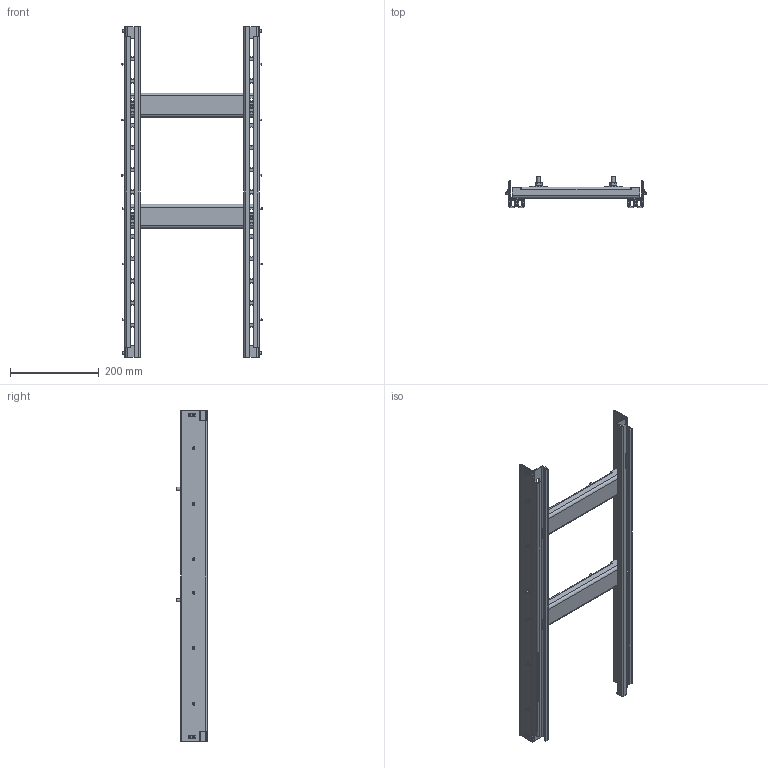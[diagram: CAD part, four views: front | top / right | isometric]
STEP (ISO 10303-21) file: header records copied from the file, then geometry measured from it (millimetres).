
FILE_DESCRIPTION(('STEP AP203'), '1');
FILE_NAME('3557 Êîìïëåêò äëÿ óñòàíîâêè òÿæåëîãî îáîðóäîâàíèÿ', '', ('UNSPECIFIED'), ('UNSPECIFIED'), 'C3D Converter', 'C3D Toolkit', '');
FILE_SCHEMA(('CONFIG_CONTROL_DESIGN'));
Length unit declared in the file: millimetre
Products named in the file (16): 3557.40.80; 3607.80; 3507.40; 2541; 2542; 3555; 3556
Assembly tree (47 placements, depth 4):
  3557.40.80
    3607.80  x2
    3507.40  x2
    2541  x4
      2542
        (unnamed)
      (unnamed)
      (unnamed)
      (unnamed)
    3555  x4
      3556
      (unnamed)
    (unnamed)  x4
    (unnamed)  x4
    (unnamed)  x4
    (unnamed)  x16
Bounding box: 317.2 x 69 x 745 mm (x, y, z)
Volume: 704460.2 mm3; surface area: 659863.7 mm2
Topology: 60 solids, 60 shells, 1552 faces, 3956 edges, 2620 vertices
Faces by surface type: plane 1060, cylinder 400, cone 88, torus 4
Full cylindrical faces by diameter (mm): 4.917 x4, 5 x16, 6 x4, 6.4 x4, 6.5 x12, 6.917 x4, 7.6 x4, 8 x8, 8.3 x4, 8.5 x4, 9.2 x16, 12 x16, 40 x4
Entity records: 18576 total; most frequent: CARTESIAN_POINT 6168, DIRECTION 2308, ORIENTED_EDGE 2062, EDGE_CURVE 1031, AXIS2_PLACEMENT_3D 811, LINE 686, VECTOR 686, VERTEX_POINT 665
